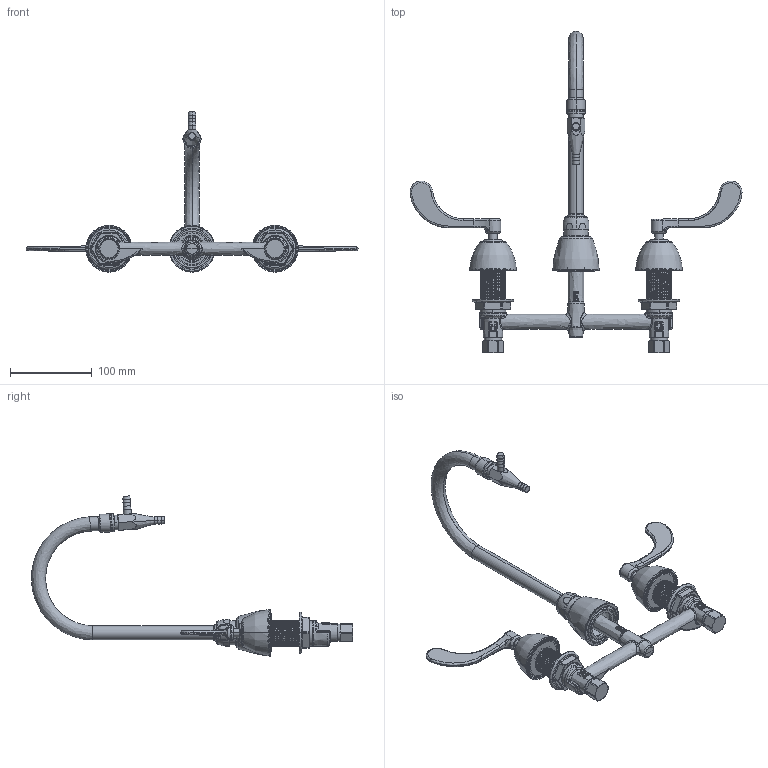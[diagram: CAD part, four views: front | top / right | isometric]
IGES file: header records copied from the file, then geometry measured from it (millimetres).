
Start section:  PTC IGES file: lwm2-a33-a_sw0001.igs
Global section: file name: lwm2-a33-a_sw0001.igs; native system: Creo Parametric by PTC Inc.; preprocessor: 2014500; author: usch_engrender; organization: Unknown; date: 20160118.154744; units: inch
Bounding box: 406.4 x 393.23 x 196.12 mm (x, y, z)
Surface area: 174039.2 mm2 (no closed solid volume)
Topology: 0 solids, 0 shells, 1968 faces, 14695 edges, 19237 vertices
Faces by surface type: bspline 1136, revolution 832
